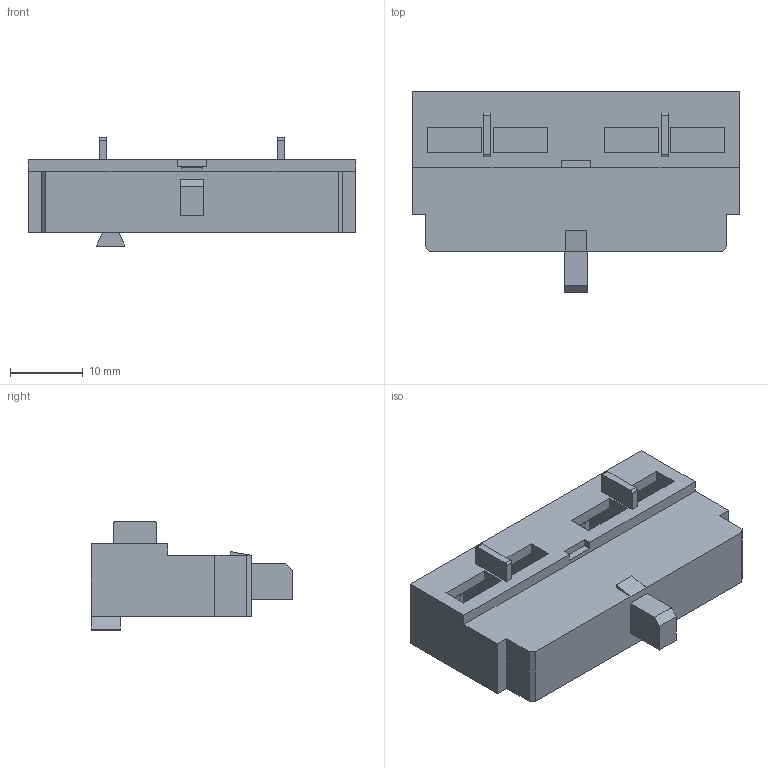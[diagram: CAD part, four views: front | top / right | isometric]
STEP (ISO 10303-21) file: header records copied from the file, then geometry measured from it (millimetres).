
FILE_DESCRIPTION (( 'STEP AP214' ), '1' );
FILE_NAME ('MP-HQ.STEP', '2023-01-13T07:55:56', ( '' ), ( '' ), 'SwSTEP 2.0', 'SolidWorks 2018', '' );
FILE_SCHEMA (( 'AUTOMOTIVE_DESIGN' ));
Length unit declared in the file: millimetre
Products named in the file (1): MP-HQ
Bounding box: 45 x 27.7 x 14.9 mm (x, y, z)
Volume: 7137.2 mm3; surface area: 4546.8 mm2
Topology: 1 solids, 1 shells, 84 faces, 223 edges, 148 vertices
Faces by surface type: plane 70, cylinder 14
Entity records: 2629 total; most frequent: CARTESIAN_POINT 456, ORIENTED_EDGE 446, DIRECTION 421, EDGE_CURVE 223, VECTOR 195, LINE 195, VERTEX_POINT 148, AXIS2_PLACEMENT_3D 113
